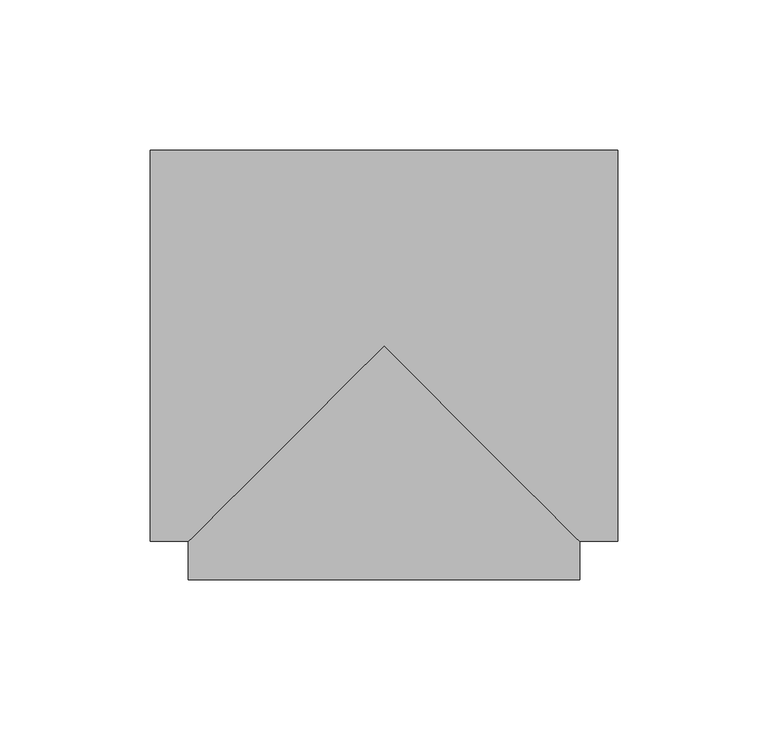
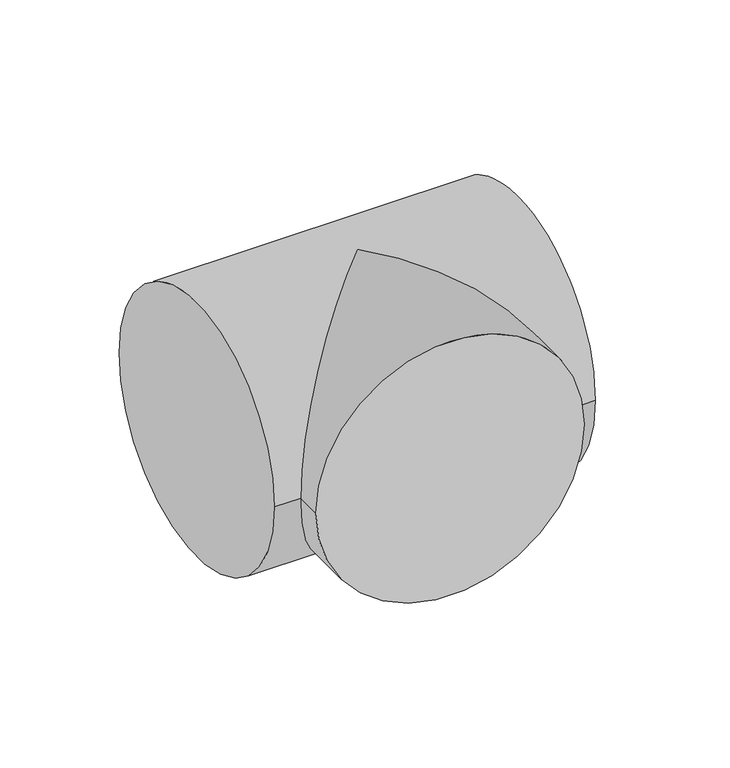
"""IFC4 building model written with IfcOpenShell, lengths in millimetres: pipe fitting geometry, M_Te - Genérica : Estándar."""

from ifc_helpers import new_model, si_unit, frame, origin, place, context, project, spatial, circle_curve, ellipse_curve, source, transform, mapped, element, save
from ifc_brep_helpers import plane_surface, cylinder_surface, advanced_brep


def pipe_fitting_97cb9ba5(model_context):
    return source(origin(), model_context, "Body", "AdvancedBrep", [
        advanced_brep(
        [(-77.7875, -65.0875, 0.0), (-77.7875, 65.0875, 0.0), (77.7875, -65.0875, 0.0), (77.7875, 65.0875, 0.0), (-65.0875, -65.0875, 0.0), (0.0, 0.0, 65.0875), (65.0875, -65.0875, 0.0), (0.0, 0.0, -65.0875), (-65.0875, -77.7875, 0.0), (65.0875, -77.7875, 0.0)],
        [
            (0, 1, circle_curve(frame((-77.7875, 0.0, 0.0), z_axis=(-1.0, 0.0, 0.0), x_axis=(0.0, 1.0, 0.0)), 65.0875)),
            (1, 0, circle_curve(frame((-77.7875, 0.0, 0.0), z_axis=(-1.0, 0.0, 0.0), x_axis=(0.0, 1.0, 0.0)), 65.0875)),
            (2, 3, circle_curve(frame((77.7875, 0.0, 0.0), z_axis=(1.0, 0.0, 0.0), x_axis=(0.0, 1.0, 0.0)), 65.0875)),
            (3, 2, circle_curve(frame((77.7875, 0.0, 0.0), z_axis=(1.0, 0.0, 0.0), x_axis=(0.0, 1.0, 0.0)), 65.0875)),
            (0, 4),
            (4, 5, ellipse_curve(frame((0.0, 0.0, 0.0), z_axis=(-0.707106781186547, 0.7071067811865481, 0.0), x_axis=(-0.707106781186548, -0.707106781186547, 0.0)), 92.0476252, 65.0875)),
            (5, 6, ellipse_curve(frame((0.0, 0.0, 0.0), z_axis=(0.707106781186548, 0.7071067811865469, 0.0), x_axis=(-0.707106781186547, 0.707106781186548, 0.0)), 92.0476252, 65.0875)),
            (6, 2),
            (3, 1),
            (6, 7, ellipse_curve(frame((0.0, 0.0, 0.0), z_axis=(0.707106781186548, 0.7071067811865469, 0.0), x_axis=(-0.707106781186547, 0.707106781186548, 0.0)), 92.0476252, 65.0875)),
            (7, 4, ellipse_curve(frame((0.0, 0.0, 0.0), z_axis=(-0.707106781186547, 0.7071067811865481, 0.0), x_axis=(-0.707106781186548, -0.707106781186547, 0.0)), 92.0476252, 65.0875)),
            (8, 9, circle_curve(frame((0.0, -77.7875, 0.0), z_axis=(0.0, -1.0, 0.0), x_axis=(1.0, 0.0, 0.0)), 65.0875)),
            (9, 8, circle_curve(frame((0.0, -77.7875, 0.0), z_axis=(0.0, -1.0, 0.0), x_axis=(1.0, 0.0, 0.0)), 65.0875)),
            (9, 6),
            (4, 8),
        ],
        [
            plane_surface(frame((-77.7875, 0.0, 0.0), z_axis=(-1.0, 0.0, 0.0), x_axis=(0.0, 0.0, 1.0))),
            plane_surface(frame((77.7875, 0.0, 0.0), z_axis=(1.0, 0.0, 0.0), x_axis=(0.0, 0.0, 1.0))),
            cylinder_surface(frame((-77.7875, 0.0, 0.0), z_axis=(-1.0, 0.0, 0.0), x_axis=(0.0, 1.0, 0.0)), 65.0875),
            plane_surface(frame((0.0, -77.7875, 0.0), z_axis=(0.0, -1.0, 0.0), x_axis=(0.0, 0.0, 1.0))),
            cylinder_surface(frame((0.0, 0.0, 0.0), z_axis=(0.0, 1.0, 0.0), x_axis=(1.0, 0.0, 0.0)), 65.0875),
        ],
        [
            (0, [[1, 2]]),
            (1, [[3, 4]]),
            (2, [[-1, 5, 6, 7, 8, -4, 9]]),
            (2, [[-2, -9, -3, -8, 10, 11, -5]]),
            (3, [[12, 13]]),
            (4, [[-13, 14, -7, -6, 15]]),
            (4, [[-12, -15, -11, -10, -14]]),
        ],
    ),
    ])


if __name__ == "__main__":
    model = new_model("IFC4")
    model_context = context("Model", 3, world=origin())
    ifc_project = project(units=[si_unit("LENGTHUNIT", "METRE", prefix="MILLI")], contexts=[model_context])
    site = spatial("IfcSite", under=ifc_project)
    building = spatial("IfcBuilding", under=site)
    placement = place(None, origin())
    pipe_fitting_shape = pipe_fitting_97cb9ba5(model_context)
    element("IfcPipeFitting", 1, ObjectType="M_Te - Genérica : Estándar", at=placement, inside=building, context=model_context, shape_type="MappedRepresentation", body=[
        mapped(pipe_fitting_shape, transform((0.0, 0.0, 0.0), x_axis=(1.0, 0.0, 0.0), y_axis=(0.0, 1.0, 0.0), z_axis=(0.0, 0.0, 1.0))),
    ])
    save(model, "model.ifc")
